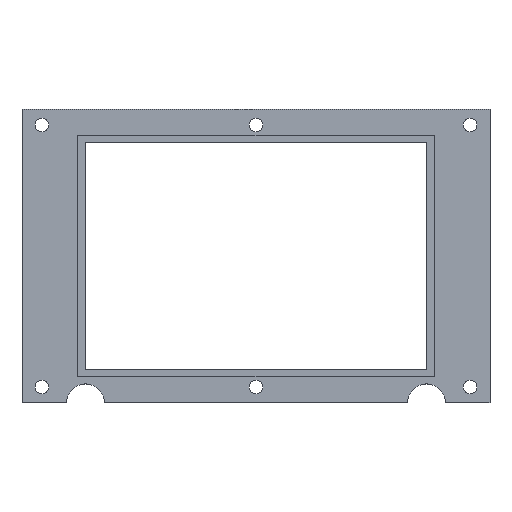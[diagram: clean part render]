
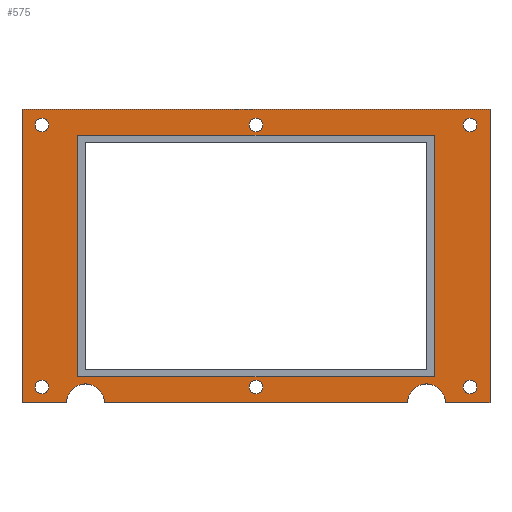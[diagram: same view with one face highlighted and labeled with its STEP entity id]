
A CAD part, top view. The second image highlights one B-rep face of the part: STEP entity #575.
In plain terms, the highlighted planar face has unit normal (0, 0, 1).
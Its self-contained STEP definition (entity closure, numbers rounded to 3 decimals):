
#22=FACE_BOUND('',#113,.T.);
#23=FACE_BOUND('',#114,.T.);
#24=FACE_BOUND('',#115,.T.);
#25=FACE_BOUND('',#116,.T.);
#26=FACE_BOUND('',#117,.T.);
#27=FACE_BOUND('',#118,.T.);
#28=FACE_BOUND('',#119,.T.);
#37=PLANE('',#649);
#74=FACE_OUTER_BOUND('',#112,.T.);
#112=EDGE_LOOP('',(#484,#485,#486,#487,#488,#489,#490,#491));
#113=EDGE_LOOP('',(#492));
#114=EDGE_LOOP('',(#493));
#115=EDGE_LOOP('',(#494));
#116=EDGE_LOOP('',(#495));
#117=EDGE_LOOP('',(#496));
#118=EDGE_LOOP('',(#497));
#119=EDGE_LOOP('',(#498,#499,#500,#501));
#144=LINE('',#891,#200);
#150=LINE('',#904,#206);
#168=LINE('',#944,#224);
#169=LINE('',#946,#225);
#170=LINE('',#948,#226);
#171=LINE('',#950,#227);
#172=LINE('',#954,#228);
#173=LINE('',#956,#229);
#174=LINE('',#958,#230);
#175=LINE('',#959,#231);
#200=VECTOR('',#739,1000.);
#206=VECTOR('',#747,1000.);
#224=VECTOR('',#783,1000.);
#225=VECTOR('',#784,1000.);
#226=VECTOR('',#785,1000.);
#227=VECTOR('',#786,1000.);
#228=VECTOR('',#789,1000.);
#229=VECTOR('',#790,1000.);
#230=VECTOR('',#791,1000.);
#231=VECTOR('',#792,1000.);
#246=CIRCLE('',#614,1.7);
#249=CIRCLE('',#619,1.7);
#252=CIRCLE('',#624,1.7);
#255=CIRCLE('',#629,1.7);
#258=CIRCLE('',#634,1.7);
#261=CIRCLE('',#639,1.7);
#264=CIRCLE('',#650,4.75);
#265=CIRCLE('',#651,4.75);
#268=VERTEX_POINT('',#835);
#271=VERTEX_POINT('',#845);
#274=VERTEX_POINT('',#855);
#277=VERTEX_POINT('',#865);
#280=VERTEX_POINT('',#875);
#283=VERTEX_POINT('',#885);
#284=VERTEX_POINT('',#889);
#285=VERTEX_POINT('',#890);
#290=VERTEX_POINT('',#901);
#291=VERTEX_POINT('',#903);
#304=VERTEX_POINT('',#943);
#305=VERTEX_POINT('',#945);
#306=VERTEX_POINT('',#947);
#307=VERTEX_POINT('',#949);
#308=VERTEX_POINT('',#952);
#309=VERTEX_POINT('',#953);
#310=VERTEX_POINT('',#955);
#311=VERTEX_POINT('',#957);
#319=EDGE_CURVE('',#268,#268,#246,.T.);
#324=EDGE_CURVE('',#271,#271,#249,.T.);
#329=EDGE_CURVE('',#274,#274,#252,.T.);
#334=EDGE_CURVE('',#277,#277,#255,.T.);
#339=EDGE_CURVE('',#280,#280,#258,.T.);
#344=EDGE_CURVE('',#283,#283,#261,.T.);
#346=EDGE_CURVE('',#284,#285,#144,.T.);
#352=EDGE_CURVE('',#291,#290,#150,.T.);
#372=EDGE_CURVE('',#284,#290,#264,.T.);
#373=EDGE_CURVE('',#285,#304,#168,.T.);
#374=EDGE_CURVE('',#304,#305,#169,.T.);
#375=EDGE_CURVE('',#305,#306,#170,.T.);
#376=EDGE_CURVE('',#306,#307,#171,.T.);
#377=EDGE_CURVE('',#291,#307,#265,.T.);
#378=EDGE_CURVE('',#308,#309,#172,.T.);
#379=EDGE_CURVE('',#310,#308,#173,.T.);
#380=EDGE_CURVE('',#311,#310,#174,.T.);
#381=EDGE_CURVE('',#309,#311,#175,.T.);
#484=ORIENTED_EDGE('',*,*,#372,.F.);
#485=ORIENTED_EDGE('',*,*,#346,.T.);
#486=ORIENTED_EDGE('',*,*,#373,.T.);
#487=ORIENTED_EDGE('',*,*,#374,.T.);
#488=ORIENTED_EDGE('',*,*,#375,.T.);
#489=ORIENTED_EDGE('',*,*,#376,.T.);
#490=ORIENTED_EDGE('',*,*,#377,.F.);
#491=ORIENTED_EDGE('',*,*,#352,.T.);
#492=ORIENTED_EDGE('',*,*,#319,.F.);
#493=ORIENTED_EDGE('',*,*,#324,.F.);
#494=ORIENTED_EDGE('',*,*,#329,.F.);
#495=ORIENTED_EDGE('',*,*,#334,.F.);
#496=ORIENTED_EDGE('',*,*,#339,.F.);
#497=ORIENTED_EDGE('',*,*,#344,.F.);
#498=ORIENTED_EDGE('',*,*,#378,.F.);
#499=ORIENTED_EDGE('',*,*,#379,.F.);
#500=ORIENTED_EDGE('',*,*,#380,.F.);
#501=ORIENTED_EDGE('',*,*,#381,.F.);
#575=ADVANCED_FACE('',(#74,#22,#23,#24,#25,#26,#27,#28),#37,.T.);
#614=AXIS2_PLACEMENT_3D('',#836,#674,#675);
#619=AXIS2_PLACEMENT_3D('',#846,#686,#687);
#624=AXIS2_PLACEMENT_3D('',#856,#698,#699);
#629=AXIS2_PLACEMENT_3D('',#866,#710,#711);
#634=AXIS2_PLACEMENT_3D('',#876,#722,#723);
#639=AXIS2_PLACEMENT_3D('',#886,#734,#735);
#649=AXIS2_PLACEMENT_3D('',#941,#779,#780);
#650=AXIS2_PLACEMENT_3D('',#942,#781,#782);
#651=AXIS2_PLACEMENT_3D('',#951,#787,#788);
#674=DIRECTION('center_axis',(0.,0.,1.));
#675=DIRECTION('ref_axis',(1.,0.,0.));
#686=DIRECTION('center_axis',(0.,0.,1.));
#687=DIRECTION('ref_axis',(1.,0.,0.));
#698=DIRECTION('center_axis',(0.,0.,1.));
#699=DIRECTION('ref_axis',(1.,0.,0.));
#710=DIRECTION('center_axis',(0.,0.,1.));
#711=DIRECTION('ref_axis',(1.,0.,0.));
#722=DIRECTION('center_axis',(0.,0.,1.));
#723=DIRECTION('ref_axis',(1.,0.,0.));
#734=DIRECTION('center_axis',(0.,0.,1.));
#735=DIRECTION('ref_axis',(1.,0.,0.));
#739=DIRECTION('',(1.,0.,0.));
#747=DIRECTION('',(1.,0.,0.));
#779=DIRECTION('center_axis',(0.,0.,1.));
#780=DIRECTION('ref_axis',(1.,0.,0.));
#781=DIRECTION('center_axis',(0.,0.,1.));
#782=DIRECTION('ref_axis',(1.,0.,0.));
#783=DIRECTION('',(0.,1.,0.));
#784=DIRECTION('',(-1.,0.,0.));
#785=DIRECTION('',(0.,-1.,0.));
#786=DIRECTION('',(1.,0.,0.));
#787=DIRECTION('center_axis',(0.,0.,1.));
#788=DIRECTION('ref_axis',(1.,0.,0.));
#789=DIRECTION('',(0.,-1.,0.));
#790=DIRECTION('',(-1.,0.,0.));
#791=DIRECTION('',(0.,1.,0.));
#792=DIRECTION('',(1.,0.,0.));
#835=CARTESIAN_POINT('',(55.7,33.,2.));
#836=CARTESIAN_POINT('Origin',(54.,33.,2.));
#845=CARTESIAN_POINT('',(1.7,33.,2.));
#846=CARTESIAN_POINT('Origin',(0.,33.,2.));
#855=CARTESIAN_POINT('',(-52.3,33.,2.));
#856=CARTESIAN_POINT('Origin',(-54.,33.,2.));
#865=CARTESIAN_POINT('',(1.7,-33.,2.));
#866=CARTESIAN_POINT('Origin',(0.,-33.,2.));
#875=CARTESIAN_POINT('',(-52.3,-33.,2.));
#876=CARTESIAN_POINT('Origin',(-54.,-33.,2.));
#885=CARTESIAN_POINT('',(55.7,-33.,2.));
#886=CARTESIAN_POINT('Origin',(54.,-33.,2.));
#889=CARTESIAN_POINT('',(47.75,-37.,2.));
#890=CARTESIAN_POINT('',(59.,-37.,2.));
#891=CARTESIAN_POINT('',(-59.,-37.,2.));
#901=CARTESIAN_POINT('',(38.25,-37.,2.));
#903=CARTESIAN_POINT('',(-38.25,-37.,2.));
#904=CARTESIAN_POINT('',(-59.,-37.,2.));
#941=CARTESIAN_POINT('Origin',(0.,0.,2.));
#942=CARTESIAN_POINT('Origin',(43.,-37.,2.));
#943=CARTESIAN_POINT('',(59.,37.,2.));
#944=CARTESIAN_POINT('',(59.,37.,2.));
#945=CARTESIAN_POINT('',(-59.,37.,2.));
#946=CARTESIAN_POINT('',(-59.,37.,2.));
#947=CARTESIAN_POINT('',(-59.,-37.,2.));
#948=CARTESIAN_POINT('',(-59.,37.,2.));
#949=CARTESIAN_POINT('',(-47.75,-37.,2.));
#950=CARTESIAN_POINT('',(-59.,-37.,2.));
#951=CARTESIAN_POINT('Origin',(-43.,-37.,2.));
#952=CARTESIAN_POINT('',(-45.,30.5,2.));
#953=CARTESIAN_POINT('',(-45.,-30.5,2.));
#954=CARTESIAN_POINT('',(-45.,-30.5,2.));
#955=CARTESIAN_POINT('',(45.,30.5,2.));
#956=CARTESIAN_POINT('',(45.,30.5,2.));
#957=CARTESIAN_POINT('',(45.,-30.5,2.));
#958=CARTESIAN_POINT('',(45.,-30.5,2.));
#959=CARTESIAN_POINT('',(45.,-30.5,2.));
